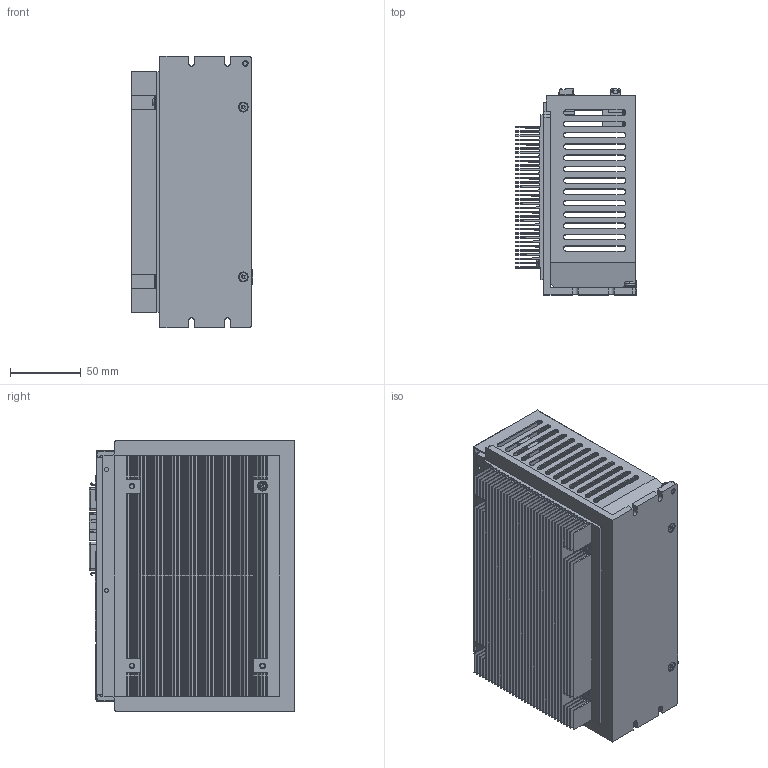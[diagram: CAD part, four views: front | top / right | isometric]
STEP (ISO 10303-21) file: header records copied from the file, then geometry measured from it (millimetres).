
FILE_DESCRIPTION (( 'STEP AP203' ), '1' );
FILE_NAME ('D1-xx-xx-x-1-xx.STEP', '2013-06-24T08:49:14', ( '' ), ( '' ), 'SwSTEP 2.0', 'SolidWorks 2010', '' );
FILE_SCHEMA (( 'CONFIG_CONTROL_DESIGN' ));
Products named in the file (1): D1-xx-xx-x-1-xx
Bounding box: 85.5 x 145.41 x 191.6 mm (x, y, z)
Volume: 393715.3 mm3; surface area: 466949.9 mm2
Topology: 32 solids, 32 shells, 3461 faces, 9184 edges, 6078 vertices
Faces by surface type: plane 2144, cylinder 759, bspline 522, cone 36
Entity records: 132649 total; most frequent: CARTESIAN_POINT 48423, ORIENTED_EDGE 18364, DIRECTION 15524, EDGE_CURVE 9182, VECTOR 6518, LINE 6518, VERTEX_POINT 6078, AXIS2_PLACEMENT_3D 4503
